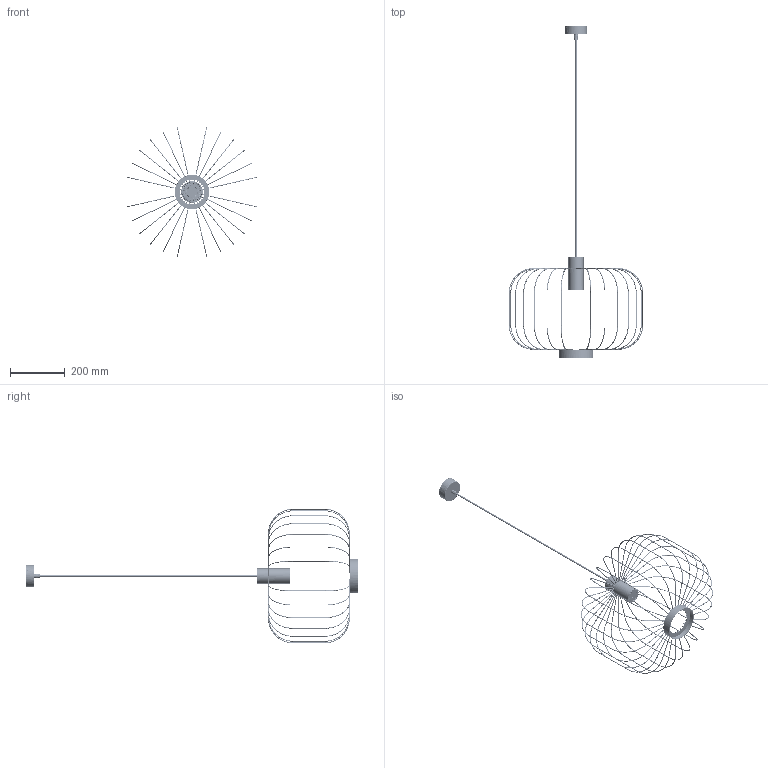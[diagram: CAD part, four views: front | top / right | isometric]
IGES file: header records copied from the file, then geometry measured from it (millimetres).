
Start section: SolidWorks IGES file using NURBS representation for surfaces
Global section: file name: Z:\Modele 3D_WWW\_KOLEKCJE_WWW\ALLAN-6941\ALLAN-6941.IGS; native system: SolidWorks 2021; preprocessor: SolidWorks 2021; author: gabriela.tworek; date: 210920.082547; units: millimetre
Bounding box: 493.3 x 1215.93 x 493.3 mm (x, y, z)
Surface area: 327561.5 mm2 (no closed solid volume)
Topology: 0 solids, 0 shells, 2608 faces, 35082 edges, 35078 vertices
Faces by surface type: bspline 2608
